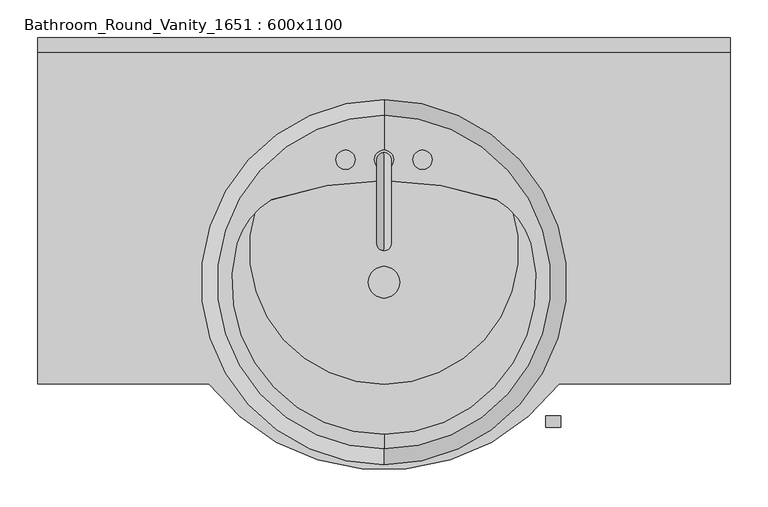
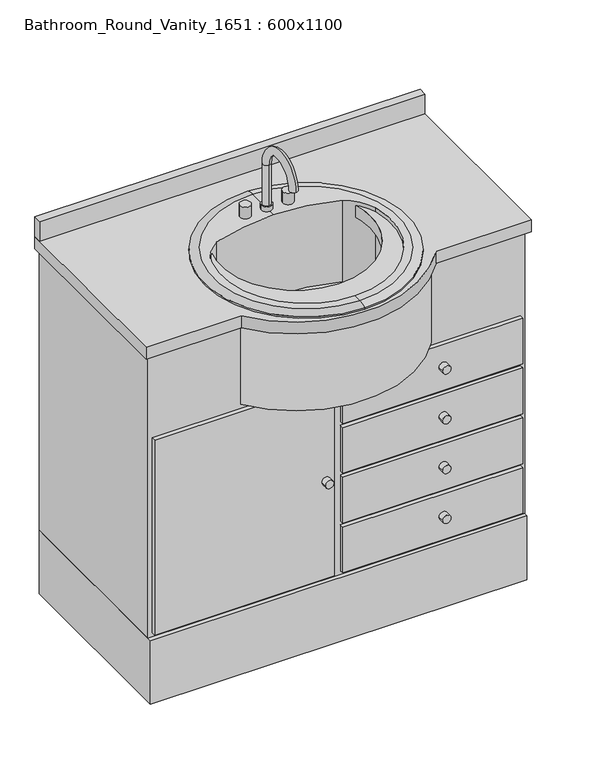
"""IFC4 building model written with IfcOpenShell, lengths in millimetres: furniture geometry, Bathroom_Round_Vanity_1651 : 600x1100."""

from ifc_helpers import new_model, si_unit, point, frame, frame_2d, origin, origin_with_axes, place, context, project, spatial, polyline, circle_curve, ellipse_curve, trimmed, segment, composite_curve, outline, extrude, source, transform, mapped, element, save
from ifc_brep_helpers import plane_surface, cylinder_surface, revolved_surface, advanced_brep


def bathroom_round_vanity_1651_600x1100_34019e4a(model_context):
    return source(origin(), model_context, "Body", "SolidModel", [
        advanced_brep(
        [(94.9377049, -170.6504315, 909.525), (94.9377049, -151.6004315, 909.525), (94.9377049, -170.6504315, 1022.2375), (94.9377049, -151.6004315, 1022.2375), (94.9377049, -262.4406462, 1022.2375), (94.9377049, -281.4906462, 1022.2375)],
        [
            (0, 1, circle_curve(frame((94.9377049, -161.1254315, 909.525), z_axis=(0.0, 0.0, -1.0), x_axis=(0.0, 1.0, 0.0)), 9.525)),
            (1, 0, circle_curve(frame((94.9377049, -161.1254315, 909.525), z_axis=(0.0, 0.0, -1.0), x_axis=(0.0, 1.0, 0.0)), 9.525)),
            (0, 2),
            (2, 3, circle_curve(frame((94.9377049, -161.1254315, 1022.2375), z_axis=(0.0, 0.0, -1.0), x_axis=(0.0, 1.0, 0.0)), 9.525)),
            (3, 1),
            (3, 2, circle_curve(frame((94.9377049, -161.1254315, 1022.2375), z_axis=(0.0, 0.0, -1.0), x_axis=(0.0, 1.0, 0.0)), 9.525)),
            (4, 5, circle_curve(frame((94.9377049, -271.9656462, 1022.2375), z_axis=(0.0, 0.0, -1.0), x_axis=(0.0, -1.0, 0.0)), 9.525)),
            (5, 4, circle_curve(frame((94.9377049, -271.9656462, 1022.2375), z_axis=(0.0, 0.0, -1.0), x_axis=(0.0, -1.0, 0.0)), 9.525)),
            (5, 3, circle_curve(frame((94.9377049, -216.5455388, 1022.2375), z_axis=(-1.0, 0.0, 0.0), x_axis=(0.0, 1.0, 0.0)), 64.9451073)),
            (2, 4, circle_curve(frame((94.9377049, -216.5455388, 1022.2375), z_axis=(1.0, 0.0, 0.0), x_axis=(0.0, 1.0, 0.0)), 45.8951073)),
        ],
        [
            plane_surface(frame((94.9377049, -170.6504315, 909.525), z_axis=(0.0, 0.0, -1.0), x_axis=(1.0, 0.0, 0.0))),
            cylinder_surface(frame((94.9377049, -161.1254315, 909.525), z_axis=(0.0, 0.0, -1.0), x_axis=(0.0, 1.0, 0.0)), 9.525),
            plane_surface(frame((94.9377049, -216.5455388, 1022.2375), z_axis=(0.0, 0.0, -1.0), x_axis=(0.0, -1.0, 0.0))),
            revolved_surface(trimmed(ellipse_curve(frame((94.9377049, -161.1254315, 1022.2375), z_axis=(0.0, 0.0, -1.0), x_axis=(0.0, 1.0, 0.0)), 9.525, 9.525), [point((94.9377049, -170.6504315, 1022.2375))], [point((94.9377049, -151.6004315, 1022.2375))], True, "CARTESIAN"), (94.9377049, -216.5455388, 1022.2375), (1.0, 0.0, 0.0)),
            revolved_surface(trimmed(ellipse_curve(frame((94.9377049, -161.1254315, 1022.2375), z_axis=(0.0, 0.0, -1.0), x_axis=(0.0, 1.0, 0.0)), 9.525, 9.525), [point((94.9377049, -151.6004315, 1022.2375))], [point((94.9377049, -170.6504315, 1022.2375))], True, "CARTESIAN"), (94.9377049, -216.5455388, 1022.2375), (1.0, 0.0, 0.0)),
        ],
        [
            (0, [[1, 2]]),
            (1, [[-1, 3, 4, 5]]),
            (1, [[-2, -5, 6, -3]]),
            (2, [[7, 8]]),
            (3, [[9, -4, 10, -8]]),
            (4, [[-10, -6, -9, -7]]),
        ],
    ),
        extrude(outline(composite_curve([segment(trimmed(circle_curve(frame_2d((94.9377049, -161.1254315)), 12.7), [point((82.2377049, -161.1254315))], [point((107.6377049, -161.1254315))], False, "CARTESIAN"), True, "CONTINUOUS"), segment(trimmed(circle_curve(frame_2d((94.9377049, -161.1254315)), 12.7), [point((107.6377049, -161.1254315))], [point((82.2377049, -161.1254315))], False, "CARTESIAN"), True, "CONTINUOUS")], self_intersect=False)), frame((0.0, 0.0, 909.525), z_axis=(0.0, 0.0, 1.0), x_axis=(1.0, 0.0, 0.0)), (0.0, 0.0, 1.0), 12.2352909),
        extrude(outline(composite_curve([segment(trimmed(circle_curve(frame_2d((44.1377049, -161.1254315)), 12.7), [point((31.4377049, -161.1254315))], [point((56.8377049, -161.1254315))], False, "CARTESIAN"), True, "CONTINUOUS"), segment(trimmed(circle_curve(frame_2d((44.1377049, -161.1254315)), 12.7), [point((56.8377049, -161.1254315))], [point((31.4377049, -161.1254315))], False, "CARTESIAN"), True, "CONTINUOUS")], self_intersect=False)), frame((0.0, 0.0, 909.525), z_axis=(0.0, 0.0, 1.0), x_axis=(1.0, 0.0, 0.0)), (0.0, 0.0, 1.0), 28.575),
        extrude(outline(composite_curve([segment(trimmed(circle_curve(frame_2d((145.7377049, -161.1254315)), 12.7), [point((133.0377049, -161.1254315))], [point((158.4377049, -161.1254315))], False, "CARTESIAN"), True, "CONTINUOUS"), segment(trimmed(circle_curve(frame_2d((145.7377049, -161.1254315)), 12.7), [point((158.4377049, -161.1254315))], [point((133.0377049, -161.1254315))], False, "CARTESIAN"), True, "CONTINUOUS")], self_intersect=False)), frame((0.0, 0.0, 909.525), z_axis=(0.0, 0.0, 1.0), x_axis=(1.0, 0.0, 0.0)), (0.0, 0.0, 1.0), 28.575),
        extrude(outline(composite_curve([segment(trimmed(circle_curve(frame_2d((94.9377049, -323.0504315)), 20.6375), [point((74.3002049, -323.0504315))], [point((115.5752049, -323.0504315))], False, "CARTESIAN"), True, "CONTINUOUS"), segment(trimmed(circle_curve(frame_2d((94.9377049, -323.0504315)), 20.6375), [point((115.5752049, -323.0504315))], [point((74.3002049, -323.0504315))], False, "CARTESIAN"), True, "CONTINUOUS")], self_intersect=False)), frame((0.0, 0.0, 684.1), z_axis=(0.0, 0.0, 1.0), x_axis=(1.0, 0.0, 0.0)), (0.0, 0.0, 1.0), 21.1842611),
        advanced_brep(
        [(94.9377049, -543.6051593, 909.525), (94.9377049, -102.4957037, 909.525), (94.9377049, -81.7504315, 903.96875), (94.9377049, -564.3504315, 903.96875), (94.9377049, -524.4587205, 909.525), (-99.884377, -271.9656462, 909.525), (-53.8675289, -214.1320102, 909.525), (94.9377049, -188.9519451, 909.525), (243.7429387, -214.1320102, 909.525), (289.7597868, -271.9656462, 909.525), (94.9377049, -515.3445528, 684.1), (94.9377049, -130.7563102, 684.1), (94.9377049, -323.0504315, 684.1), (94.9377049, -535.9008861, 705.2842611), (94.9377049, -110.1999769, 705.2842611), (94.9377049, -552.4441815, 900.0), (94.9377049, -93.6566815, 900.0), (94.9377049, -564.3504315, 900.0), (94.9377049, -81.7504315, 900.0), (243.7429387, -214.1320102, 705.2842611), (-53.8675289, -214.1320102, 705.2842611), (-99.884377, -271.9656462, 705.2842611), (289.7597868, -271.9656462, 705.2842611)],
        [
            (0, 1, circle_curve(frame((94.9377049, -323.0504315, 909.525), z_axis=(0.0, 0.0, -1.0), x_axis=(0.0, 1.0, 0.0)), 220.5547278)),
            (1, 2, circle_curve(frame((94.9377049, -98.7806884, 881.889434), z_axis=(-1.0, 0.0, 0.0), x_axis=(0.0, 1.0, 0.0)), 27.8841505)),
            (2, 3, circle_curve(frame((94.9377049, -323.0504315, 903.96875), z_axis=(0.0, 0.0, 1.0), x_axis=(0.0, 1.0, 0.0)), 241.3)),
            (3, 0, circle_curve(frame((94.9377049, -547.3201745, 881.889434), z_axis=(-1.0, 0.0, 0.0), x_axis=(0.0, -1.0, 0.0)), 27.8841505)),
            (1, 0, circle_curve(frame((94.9377049, -323.0504315, 909.525), z_axis=(0.0, 0.0, -1.0), x_axis=(0.0, 1.0, 0.0)), 220.5547278)),
            (3, 2, circle_curve(frame((94.9377049, -323.0504315, 903.96875), z_axis=(0.0, 0.0, 1.0), x_axis=(0.0, 1.0, 0.0)), 241.3)),
            (0, 4),
            (4, 5, circle_curve(frame((94.9377049, -323.0504315, 909.525), z_axis=(0.0, 0.0, -1.0), x_axis=(1.0, 0.0, 0.0)), 201.408289)),
            (5, 6, circle_curve(frame((-0.3450667, -303.9426335, 909.525), z_axis=(0.0, 0.0, -1.0), x_axis=(1.0, 0.0, 0.0)), 104.5495194)),
            (6, 7, circle_curve(frame((94.9377049, -641.2349961, 909.525), z_axis=(0.0, 0.0, -1.0), x_axis=(1.0, 0.0, 0.0)), 452.283051)),
            (7, 1),
            (7, 8, circle_curve(frame((94.9377049, -641.2349961, 909.525), z_axis=(0.0, 0.0, -1.0), x_axis=(1.0, 0.0, 0.0)), 452.283051)),
            (8, 9, circle_curve(frame((190.2204765, -303.9426335, 909.525), z_axis=(0.0, 0.0, -1.0), x_axis=(1.0, 0.0, 0.0)), 104.5495194)),
            (9, 4, circle_curve(frame((94.9377049, -323.0504315, 909.525), z_axis=(0.0, 0.0, -1.0), x_axis=(1.0, 0.0, 0.0)), 201.408289)),
            (10, 11, circle_curve(frame((94.9377049, -323.0504315, 684.1), z_axis=(0.0, 0.0, -1.0), x_axis=(0.0, 1.0, 0.0)), 192.2941213)),
            (11, 12),
            (12, 10),
            (11, 10, circle_curve(frame((94.9377049, -323.0504315, 684.1), z_axis=(0.0, 0.0, -1.0), x_axis=(0.0, 1.0, 0.0)), 192.2941213)),
            (10, 13, circle_curve(frame((94.9377049, -515.3445528, 704.6656396), z_axis=(-1.0, 0.0, 0.0), x_axis=(0.0, -1.0, 0.0)), 20.5656396)),
            (13, 14, circle_curve(frame((94.9377049, -323.0504315, 705.2842611), z_axis=(0.0, 0.0, -1.0), x_axis=(0.0, 1.0, 0.0)), 212.8504546)),
            (14, 11, circle_curve(frame((94.9377049, -130.7563102, 704.6656396), z_axis=(-1.0, 0.0, 0.0), x_axis=(0.0, 1.0, 0.0)), 20.5656396)),
            (14, 13, circle_curve(frame((94.9377049, -323.0504315, 705.2842611), z_axis=(0.0, 0.0, -1.0), x_axis=(0.0, 1.0, 0.0)), 212.8504546)),
            (13, 15),
            (15, 16, circle_curve(frame((94.9377049, -323.0504315, 900.0), z_axis=(0.0, 0.0, -1.0), x_axis=(0.0, 1.0, 0.0)), 229.39375)),
            (16, 14),
            (16, 15, circle_curve(frame((94.9377049, -323.0504315, 900.0), z_axis=(0.0, 0.0, -1.0), x_axis=(0.0, 1.0, 0.0)), 229.39375)),
            (15, 17),
            (17, 18, circle_curve(frame((94.9377049, -323.0504315, 900.0), z_axis=(0.0, 0.0, -1.0), x_axis=(0.0, 1.0, 0.0)), 241.3)),
            (18, 16),
            (18, 17, circle_curve(frame((94.9377049, -323.0504315, 900.0), z_axis=(0.0, 0.0, -1.0), x_axis=(0.0, 1.0, 0.0)), 241.3)),
            (2, 18),
            (17, 3),
            (19, 20, circle_curve(frame((94.9377049, -641.2349961, 705.2842611), z_axis=(0.0, 0.0, 1.0), x_axis=(1.0, 0.0, 0.0)), 452.283051)),
            (20, 21, circle_curve(frame((-0.3450667, -303.9426335, 705.2842611), z_axis=(0.0, 0.0, 1.0), x_axis=(1.0, 0.0, 0.0)), 104.5495194)),
            (21, 22, circle_curve(frame((94.9377049, -323.0504315, 705.2842611), z_axis=(0.0, 0.0, 1.0), x_axis=(1.0, 0.0, 0.0)), 201.408289)),
            (22, 19, circle_curve(frame((190.2204765, -303.9426335, 705.2842611), z_axis=(0.0, 0.0, 1.0), x_axis=(1.0, 0.0, 0.0)), 104.5495194)),
            (19, 8),
            (6, 20),
            (5, 21),
            (9, 22),
        ],
        [
            revolved_surface(trimmed(ellipse_curve(frame((94.9377049, -98.7806884, 881.889434), z_axis=(1.0, 0.0, 0.0), x_axis=(0.0, 1.0, 0.0)), 27.8841505, 27.8841505), [point((94.9377049, -81.7504315, 903.96875))], [point((94.9377049, -102.4957037, 909.525))], True, "CARTESIAN"), (94.9377049, -323.0504315, 909.525), (0.0, 0.0, 1.0)),
            plane_surface(frame((94.9377049, -323.0504315, 909.525), z_axis=(0.0, 0.0, 1.0), x_axis=(0.0, 1.0, 0.0))),
            plane_surface(frame((94.9377049, -323.0504315, 684.1), z_axis=(0.0, 0.0, -1.0), x_axis=(0.0, 1.0, 0.0))),
            revolved_surface(trimmed(ellipse_curve(frame((94.9377049, -130.7563102, 704.6656396), z_axis=(1.0, 0.0, 0.0), x_axis=(0.0, 1.0, 0.0)), 20.5656396, 20.5656396), [point((94.9377049, -130.7563102, 684.1))], [point((94.9377049, -110.1999769, 705.2842611))], True, "CARTESIAN"), (94.9377049, -323.0504315, 909.525), (0.0, 0.0, 1.0)),
            revolved_surface(polyline([(94.9377049, -110.1999769, 705.2842611), (94.9377049, -93.6566815, 900.0)]), (94.9377049, -323.0504315, 909.525), (0.0, 0.0, 1.0)),
            plane_surface(frame((94.9377049, -323.0504315, 900.0), z_axis=(0.0, 0.0, -1.0), x_axis=(0.0, 1.0, 0.0))),
            cylinder_surface(frame((94.9377049, -323.0504315, 909.525), z_axis=(0.0, 0.0, 1.0), x_axis=(0.0, 1.0, 0.0)), 241.3),
            plane_surface(frame((547.2207559, -641.2349961, 705.2842611), z_axis=(0.0, 0.0, 1.0), x_axis=(0.0, -1.0, 0.0))),
            revolved_surface(polyline([(547.2207559, -641.2349961, 909.525), (547.2207559, -641.2349961, 705.2842611)]), (94.9377049, -641.2349961, 705.2842611), (0.0, 0.0, 1.0)),
            revolved_surface(polyline([(104.20445269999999, -303.9426335, 909.525), (104.20445269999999, -303.9426335, 705.2842611)]), (-0.3450667, -303.9426335, 705.2842611), (0.0, 0.0, 1.0)),
            revolved_surface(polyline([(296.3459939, -323.0504315, 909.525), (296.3459939, -323.0504315, 705.2842611)]), (94.9377049, -323.0504315, 705.2842611), (0.0, 0.0, 1.0)),
            revolved_surface(polyline([(294.76999589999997, -303.9426335, 909.525), (294.76999589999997, -303.9426335, 705.2842611)]), (190.2204765, -303.9426335, 705.2842611), (0.0, 0.0, 1.0)),
        ],
        [
            (0, [[1, 2, 3, 4]]),
            (0, [[-2, 5, -4, 6]]),
            (1, [[-1, 7, 8, 9, 10, 11]]),
            (1, [[-5, -11, 12, 13, 14, -7]]),
            (2, [[15, 16, 17]]),
            (2, [[-16, 18, -17]]),
            (3, [[-15, 19, 20, 21]]),
            (3, [[-18, -21, 22, -19]]),
            (4, [[-20, 23, 24, 25]]),
            (4, [[-22, -25, 26, -23]]),
            (5, [[-24, 27, 28, 29]]),
            (5, [[-26, -29, 30, -27]]),
            (6, [[-3, 31, -28, 32]]),
            (6, [[-6, -32, -30, -31]]),
            (7, [[33, 34, 35, 36]]),
            (8, [[-33, 37, -12, -10, 38]]),
            (9, [[-34, -38, -9, 39]]),
            (10, [[-35, -39, -8, -14, 40]]),
            (11, [[-36, -40, -13, -37]]),
        ],
    ),
        extrude(outline(composite_curve([segment(trimmed(circle_curve(frame_2d((640.0, 318.5377049)), 10.0), [point((640.0, 308.5377049))], [point((640.0, 328.5377049))], False, "CARTESIAN"), True, "CONTINUOUS"), segment(trimmed(circle_curve(frame_2d((640.0, 318.5377049)), 10.0), [point((640.0, 328.5377049))], [point((640.0, 308.5377049))], False, "CARTESIAN"), True, "CONTINUOUS")], self_intersect=False)), frame((0.0, -515.0, 0.0), z_axis=(0.0, 1.0, 0.0), x_axis=(0.0, 0.0, 1.0)), (0.0, 0.0, 1.0), 15.0),
        extrude(outline(composite_curve([segment(trimmed(circle_curve(frame_2d((515.0, 318.5377049)), 10.0), [point((515.0, 308.5377049))], [point((515.0, 328.5377049))], False, "CARTESIAN"), True, "CONTINUOUS"), segment(trimmed(circle_curve(frame_2d((515.0, 318.5377049)), 10.0), [point((515.0, 328.5377049))], [point((515.0, 308.5377049))], False, "CARTESIAN"), True, "CONTINUOUS")], self_intersect=False)), frame((0.0, -515.0, 0.0), z_axis=(0.0, 1.0, 0.0), x_axis=(0.0, 0.0, 1.0)), (0.0, 0.0, 1.0), 15.0),
        extrude(outline(composite_curve([segment(trimmed(circle_curve(frame_2d((390.0, 318.5377049)), 10.0), [point((390.0, 308.5377049))], [point((390.0, 328.5377049))], False, "CARTESIAN"), True, "CONTINUOUS"), segment(trimmed(circle_curve(frame_2d((390.0, 318.5377049)), 10.0), [point((390.0, 328.5377049))], [point((390.0, 308.5377049))], False, "CARTESIAN"), True, "CONTINUOUS")], self_intersect=False)), frame((0.0, -515.0, 0.0), z_axis=(0.0, 1.0, 0.0), x_axis=(0.0, 0.0, 1.0)), (0.0, 0.0, 1.0), 15.0),
        extrude(outline(composite_curve([segment(polyline([(552.1377049, 0.0), (552.1377049, -457.2), (326.334637, -457.2)]), True, "CONTINUOUS"), segment(trimmed(circle_curve(frame_2d((94.9377049, -280.2504315)), 291.3), [point((326.334637, -457.2))], [point((-136.4592272, -457.2))], False, "CARTESIAN"), True, "CONTINUOUS"), segment(polyline([(-136.4592272, -457.2), (-362.2622951, -457.2), (-362.2622951, 0.0), (552.1377049, 0.0)]), True, "CONTINUOUS")], self_intersect=False), holes=[composite_curve([segment(trimmed(circle_curve(frame_2d((94.9377049, -280.2504315)), 177.7547278), [point((94.9377049, -102.4957037))], [point((94.9377049, -458.0051593))], True, "CARTESIAN"), True, "CONTINUOUS"), segment(trimmed(circle_curve(frame_2d((94.9377049, -280.2504315)), 177.7547278), [point((94.9377049, -458.0051593))], [point((94.9377049, -102.4957037))], True, "CARTESIAN"), True, "CONTINUOUS")], self_intersect=False)]), frame((0.0, 0.0, 870.0), z_axis=(0.0, 0.0, 1.0), x_axis=(1.0, 0.0, 0.0)), (0.0, 0.0, 1.0), 30.0),
        extrude(outline(composite_curve([segment(trimmed(circle_curve(frame_2d((265.0, 318.5377049)), 10.0), [point((265.0, 308.5377049))], [point((265.0, 328.5377049))], False, "CARTESIAN"), True, "CONTINUOUS"), segment(trimmed(circle_curve(frame_2d((265.0, 318.5377049)), 10.0), [point((265.0, 328.5377049))], [point((265.0, 308.5377049))], False, "CARTESIAN"), True, "CONTINUOUS")], self_intersect=False)), frame((0.0, -515.0, 0.0), z_axis=(0.0, 1.0, 0.0), x_axis=(0.0, 0.0, 1.0)), (0.0, 0.0, 1.0), 15.0),
        extrude(outline(composite_curve([segment(trimmed(circle_curve(frame_2d((415.0, 64.9377049)), 10.0), [point((415.0, 74.9377049))], [point((415.0, 54.9377049))], False, "CARTESIAN"), True, "CONTINUOUS"), segment(trimmed(circle_curve(frame_2d((415.0, 64.9377049)), 10.0), [point((415.0, 54.9377049))], [point((415.0, 74.9377049))], False, "CARTESIAN"), True, "CONTINUOUS")], self_intersect=False)), frame((0.0, -472.2, 0.0), z_axis=(0.0, 1.0, 0.0), x_axis=(0.0, 0.0, 1.0)), (0.0, 0.0, 1.0), 15.0),
        extrude(outline(polyline([(532.1377049, -457.2), (104.9377049, -457.2), (104.9377049, -447.2), (532.1377049, -447.2), (532.1377049, -457.2)])), frame((0.0, 0.0, 170.0), z_axis=(0.0, 0.0, 1.0), x_axis=(1.0, 0.0, 0.0)), (0.0, 0.0, 1.0), 115.0),
        extrude(outline(polyline([(84.9377049, -457.2), (-342.2622951, -457.2), (-342.2622951, -447.2), (84.9377049, -447.2), (84.9377049, -457.2)])), frame((0.0, 0.0, 170.0), z_axis=(0.0, 0.0, 1.0), x_axis=(1.0, 0.0, 0.0)), (0.0, 0.0, 1.0), 490.0),
        extrude(outline(polyline([(532.1377049, -457.2), (104.9377049, -457.2), (104.9377049, -447.2), (532.1377049, -447.2), (532.1377049, -457.2)])), frame((0.0, 0.0, 545.0), z_axis=(0.0, 0.0, 1.0), x_axis=(1.0, 0.0, 0.0)), (0.0, 0.0, 1.0), 115.0),
        extrude(outline(polyline([(532.1377049, -457.2), (104.9377049, -457.2), (104.9377049, -447.2), (532.1377049, -447.2), (532.1377049, -457.2)])), frame((0.0, 0.0, 420.0), z_axis=(0.0, 0.0, 1.0), x_axis=(1.0, 0.0, 0.0)), (0.0, 0.0, 1.0), 115.0),
        extrude(outline(polyline([(532.1377049, -457.2), (104.9377049, -457.2), (104.9377049, -447.2), (532.1377049, -447.2), (532.1377049, -457.2)])), frame((0.0, 0.0, 295.0), z_axis=(0.0, 0.0, 1.0), x_axis=(1.0, 0.0, 0.0)), (0.0, 0.0, 1.0), 115.0),
        extrude(outline(polyline([(542.1377049, 0.0), (542.1377049, -457.2), (-352.2622951, -457.2), (-352.2622951, 0.0), (542.1377049, 0.0)])), origin_with_axes(), (0.0, 0.0, 1.0), 160.0),
        advanced_brep(
        [(321.3389672, -447.2, 670.0), (-131.4635574, -447.2, 670.0), (321.3389672, -447.2, 870.0), (542.1377049, -447.2, 870.0), (542.1377049, 0.0, 870.0), (-352.2622951, 0.0, 870.0), (-352.2622951, -447.2, 870.0), (-131.4635574, -447.2, 870.0), (316.2305492, -437.2, 870.0), (-126.3551394, -437.2, 870.0), (-342.2622951, -437.2, 870.0), (-342.2622951, -10.0, 870.0), (532.1377049, -10.0, 870.0), (532.1377049, -437.2, 870.0), (-352.2622951, -447.2, 160.0), (542.1377049, -447.2, 160.0), (-352.2622951, 0.0, 160.0), (542.1377049, 0.0, 160.0), (-126.3551394, -437.2, 680.0), (316.2305492, -437.2, 680.0), (532.1377049, -437.2, 160.0), (-342.2622951, -437.2, 160.0), (532.1377049, -10.0, 160.0), (-342.2622951, -10.0, 160.0)],
        [
            (0, 1, circle_curve(frame((94.9377049, -280.2504315, 670.0), z_axis=(0.0, 0.0, -1.0), x_axis=(0.0, -1.0, 0.0)), 281.3)),
            (1, 0),
            (2, 3),
            (3, 4),
            (4, 5),
            (5, 6),
            (6, 7),
            (7, 2, circle_curve(frame((94.9377049, -280.2504315, 870.0), z_axis=(0.0, 0.0, 1.0), x_axis=(0.0, -1.0, 0.0)), 281.3)),
            (8, 9, circle_curve(frame((94.9377049, -280.2504315, 870.0), z_axis=(0.0, 0.0, -1.0), x_axis=(0.0, -1.0, 0.0)), 271.3)),
            (9, 10),
            (10, 11),
            (11, 12),
            (12, 13),
            (13, 8),
            (0, 2),
            (7, 1),
            (6, 14),
            (14, 15),
            (15, 3),
            (5, 16),
            (16, 14),
            (4, 17),
            (17, 16),
            (15, 17),
            (9, 18),
            (18, 19),
            (19, 8),
            (13, 20),
            (20, 21),
            (21, 10),
            (12, 22),
            (22, 20),
            (11, 23),
            (23, 22),
            (21, 23),
            (19, 18, circle_curve(frame((94.9377049, -280.2504315, 680.0), z_axis=(0.0, 0.0, -1.0), x_axis=(0.0, -1.0, 0.0)), 271.3)),
        ],
        [
            plane_surface(frame((94.9377049, -561.5504315, 670.0), z_axis=(0.0, 0.0, -1.0), x_axis=(-1.0, 0.0, 0.0))),
            plane_surface(frame((94.9377049, -561.5504315, 870.0), z_axis=(0.0, 0.0, 1.0), x_axis=(1.0, 0.0, 0.0))),
            cylinder_surface(frame((94.9377049, -280.2504315, 870.0), z_axis=(0.0, 0.0, -1.0), x_axis=(0.0, -1.0, 0.0)), 281.3),
            plane_surface(frame((-131.4635574, -447.2, 670.0), z_axis=(0.0, -1.0, 0.0), x_axis=(0.0, 0.0, 1.0))),
            plane_surface(frame((-352.2622951, -447.2, 670.0), z_axis=(-1.0, 0.0, 0.0), x_axis=(0.0, 0.0, 1.0))),
            plane_surface(frame((-352.2622951, 0.0, 670.0), z_axis=(0.0, 1.0, 0.0), x_axis=(0.0, 0.0, 1.0))),
            plane_surface(frame((542.1377049, 0.0, 670.0), z_axis=(1.0, 0.0, 0.0), x_axis=(0.0, 0.0, 1.0))),
            plane_surface(frame((316.2305492, -437.2, 670.0), z_axis=(0.0, 1.0, 0.0), x_axis=(0.0, 0.0, 1.0))),
            plane_surface(frame((532.1377049, -437.2, 670.0), z_axis=(-1.0, 0.0, 0.0), x_axis=(0.0, 0.0, 1.0))),
            plane_surface(frame((532.1377049, -10.0, 670.0), z_axis=(0.0, -1.0, 0.0), x_axis=(0.0, 0.0, 1.0))),
            plane_surface(frame((-342.2622951, -10.0, 670.0), z_axis=(1.0, 0.0, 0.0), x_axis=(0.0, 0.0, 1.0))),
            revolved_surface(polyline([(94.9377049, -551.5504315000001, 870.0), (94.9377049, -551.5504315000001, 680.0)]), (94.9377049, -280.2504315, 870.0), (0.0, 0.0, 1.0)),
            plane_surface(frame((366.2377049, -280.2504315, 680.0), z_axis=(0.0, 0.0, 1.0), x_axis=(0.0, 1.0, 0.0))),
            plane_surface(frame((-352.2622951, 0.0, 160.0), z_axis=(0.0, 0.0, -1.0), x_axis=(1.0, 0.0, 0.0))),
        ],
        [
            (0, [[1, 2]]),
            (1, [[3, 4, 5, 6, 7, 8], [9, 10, 11, 12, 13, 14]]),
            (2, [[-1, 15, -8, 16]]),
            (3, [[-7, 17, 18, 19, -3, -15, -2, -16]]),
            (4, [[-17, -6, 20, 21]]),
            (5, [[-20, -5, 22, 23]]),
            (6, [[-22, -4, -19, 24]]),
            (7, [[-10, 25, 26, 27, -14, 28, 29, 30]]),
            (8, [[-28, -13, 31, 32]]),
            (9, [[-31, -12, 33, 34]]),
            (10, [[-33, -11, -30, 35]]),
            (11, [[-9, -27, 36, -25]]),
            (12, [[-26, -36]]),
            (13, [[-23, -24, -18, -21], [-35, -29, -32, -34]]),
        ],
    ),
        extrude(outline(polyline([(-362.2622951, -19.05), (-362.2622951, 0.0), (552.1377049, 0.0), (552.1377049, -19.05), (-362.2622951, -19.05)])), frame((0.0, 0.0, 900.0), z_axis=(0.0, 0.0, 1.0), x_axis=(1.0, 0.0, 0.0)), (0.0, 0.0, 1.0), 50.0),
    ])


if __name__ == "__main__":
    model = new_model("IFC4")
    model_context = context("Model", 3, world=origin())
    ifc_project = project(units=[si_unit("LENGTHUNIT", "METRE", prefix="MILLI")], contexts=[model_context])
    site = spatial("IfcSite", under=ifc_project)
    building = spatial("IfcBuilding", under=site)
    placement = place(None, origin())
    bathroom_round_vanity_1651_600x1100_shape = bathroom_round_vanity_1651_600x1100_34019e4a(model_context)
    element("IfcFurniture", 1, ObjectType="Bathroom_Round_Vanity_1651 : 600x1100", at=placement, inside=building, context=model_context, shape_type="MappedRepresentation", body=[
        mapped(bathroom_round_vanity_1651_600x1100_shape, transform((0.0, 0.0, 0.0), x_axis=(1.0, 0.0, 0.0), y_axis=(0.0, 1.0, 0.0), z_axis=(0.0, 0.0, 1.0))),
    ])
    save(model, "model.ifc")
